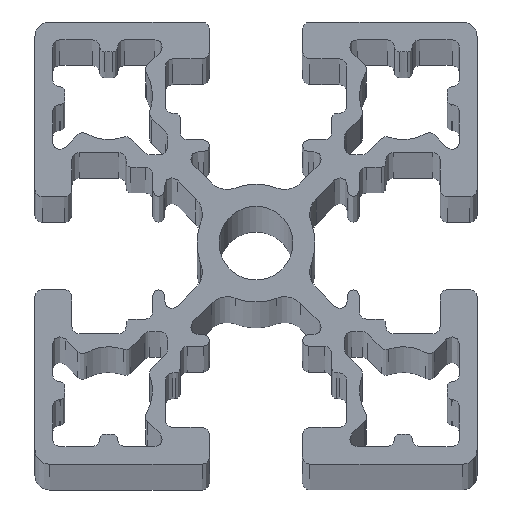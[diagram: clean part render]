
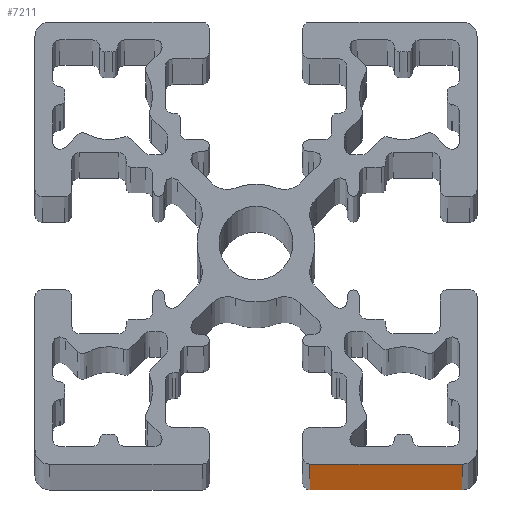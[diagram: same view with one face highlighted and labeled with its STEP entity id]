
A CAD part, top view. The second image highlights one B-rep face of the part: STEP entity #7211.
In plain terms, the highlighted planar face has unit normal (0, -1, 0).
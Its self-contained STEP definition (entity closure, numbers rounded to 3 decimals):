
#7153=CARTESIAN_POINT('',(284.,155.,1000.0));
#7154=VERTEX_POINT('',#7153);
#7162=CARTESIAN_POINT('',(284.,155.,0.0));
#7163=VERTEX_POINT('',#7162);
#7164=CARTESIAN_POINT('',(284.,155.,0.0));
#7165=DIRECTION('',(0.0,0.0,1.0));
#7166=VECTOR('',#7165,1000.0);
#7167=LINE('',#7164,#7166);
#7168=EDGE_CURVE('',#7163,#7154,#7167,.T.);
#7181=CARTESIAN_POINT('',(284.,155.,0.0));
#7182=DIRECTION('',(0.0,-1.0,0.0));
#7183=DIRECTION('',(0.0,0.0,-1.0));
#7184=AXIS2_PLACEMENT_3D('',#7181,#7182,#7183);
#7185=PLANE('',#7184);
#7186=CARTESIAN_POINT('',(273.65,155.,1000.0));
#7187=VERTEX_POINT('',#7186);
#7188=CARTESIAN_POINT('',(284.,155.,1000.0));
#7189=DIRECTION('',(-1.0,0.0,0.0));
#7190=VECTOR('',#7189,10.35);
#7191=LINE('',#7188,#7190);
#7192=EDGE_CURVE('',#7154,#7187,#7191,.T.);
#7193=ORIENTED_EDGE('',*,*,#7192,.T.);
#7194=CARTESIAN_POINT('',(273.65,155.,0.0));
#7195=VERTEX_POINT('',#7194);
#7196=CARTESIAN_POINT('',(273.65,155.,0.0));
#7197=DIRECTION('',(0.0,0.0,1.0));
#7198=VECTOR('',#7197,1000.0);
#7199=LINE('',#7196,#7198);
#7200=EDGE_CURVE('',#7195,#7187,#7199,.T.);
#7201=ORIENTED_EDGE('',*,*,#7200,.F.);
#7202=CARTESIAN_POINT('',(273.65,155.,0.0));
#7203=DIRECTION('',(1.0,0.0,0.0));
#7204=VECTOR('',#7203,10.35);
#7205=LINE('',#7202,#7204);
#7206=EDGE_CURVE('',#7195,#7163,#7205,.T.);
#7207=ORIENTED_EDGE('',*,*,#7206,.T.);
#7208=ORIENTED_EDGE('',*,*,#7168,.T.);
#7209=EDGE_LOOP('',(#7193,#7201,#7207,#7208));
#7210=FACE_OUTER_BOUND('',#7209,.T.);
#7211=ADVANCED_FACE('',(#7210),#7185,.T.);
